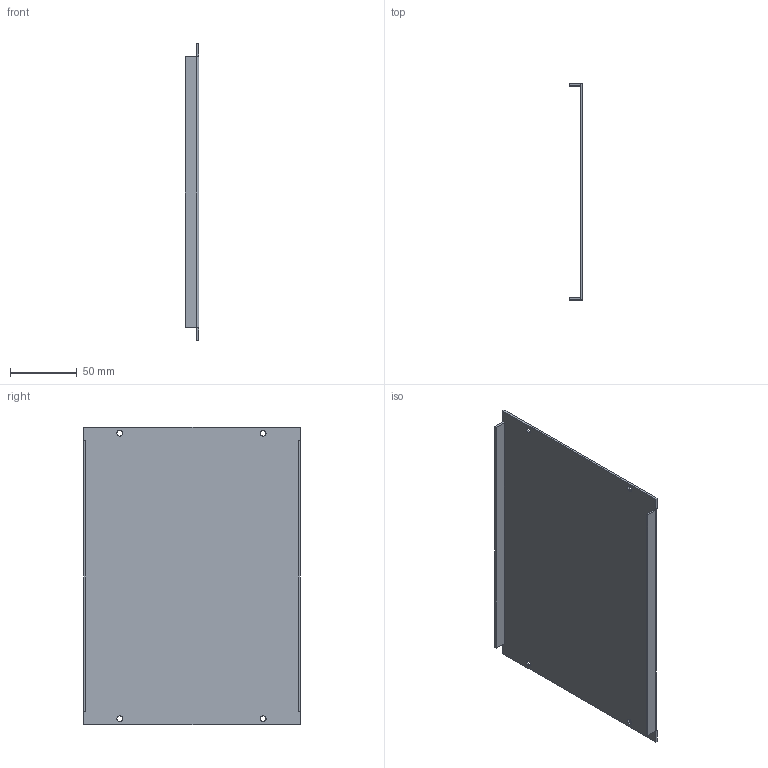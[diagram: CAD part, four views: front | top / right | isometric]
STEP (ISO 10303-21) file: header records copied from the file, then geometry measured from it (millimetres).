
FILE_DESCRIPTION(('CATIA V5 STEP Exchange'),'2;1');
FILE_NAME('C:\Users\Mike\Desktop\blank panels\3MU BLANK PANEL.stp','2018-03-03T21:32:52+00:00',('none'),('none'),'CATIA Version 5 Release 20 GA (IN-10)','CATIA V5 STEP AP214','none');
FILE_SCHEMA(('AUTOMOTIVE_DESIGN { 1 0 10303 214 1 1 1 1 }'));
Length unit declared in the file: millimetre
Products named in the file (1): 3MU BLANK PANEL
Bounding box: 10.16 x 161.67 x 222.25 mm (x, y, z)
Volume: 61756.9 mm3; surface area: 79768.4 mm2
Topology: 1 solids, 1 shells, 34 faces, 96 edges, 64 vertices
Faces by surface type: plane 20, cylinder 10, torus 4
Entity records: 1174 total; most frequent: CARTESIAN_POINT 307, ORIENTED_EDGE 192, DIRECTION 132, EDGE_CURVE 96, VECTOR 64, LINE 64, VERTEX_POINT 64, AXIS2_PLACEMENT_3D 42
